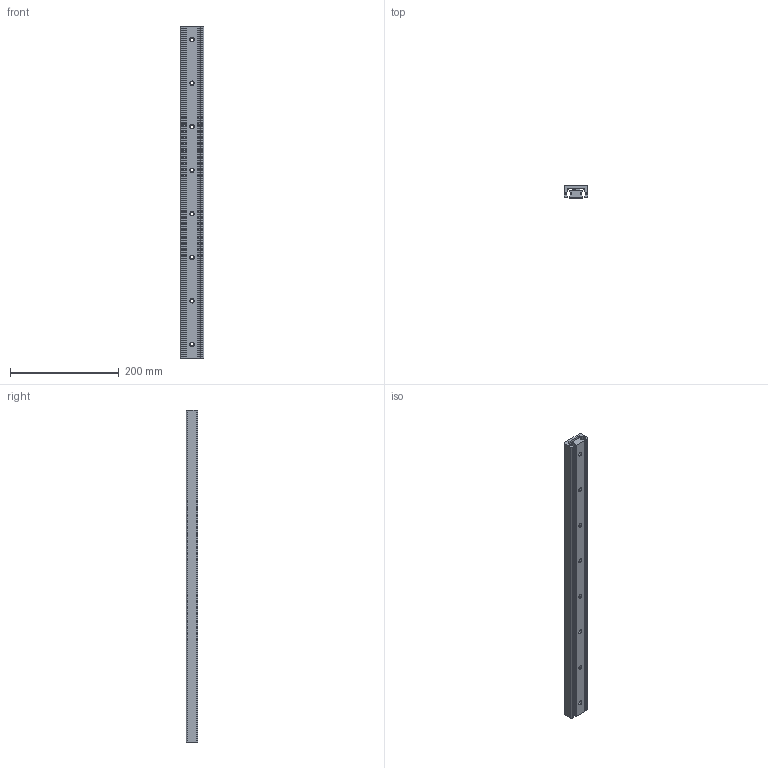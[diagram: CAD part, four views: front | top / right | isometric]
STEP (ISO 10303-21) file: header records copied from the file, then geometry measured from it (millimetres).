
FILE_DESCRIPTION(('STEP AP214'),'1');
FILE_NAME('rail_asn43-610_00.stp','2017-06-06T10:15:59',('TraceParts'),('TraceParts S.A.'),'Spatial InterOp 3D',' ',' ');
FILE_SCHEMA(('automotive_design'));
Length unit declared in the file: millimetre
Products named in the file (2): rail_asn43-610_00_1; rail_asn43-610_00_2
Bounding box: 43 x 22.01 x 610 mm (x, y, z)
Volume: 371376.8 mm3; surface area: 144552.5 mm2
Topology: 2 solids, 2 shells, 157 faces, 396 edges, 248 vertices
Faces by surface type: cylinder 63, cone 48, plane 46
Entity records: 4814 total; most frequent: DIRECTION 888, CARTESIAN_POINT 803, ORIENTED_EDGE 792, EDGE_CURVE 396, AXIS2_PLACEMENT_3D 333, VERTEX_POINT 248, LINE 222, VECTOR 222
